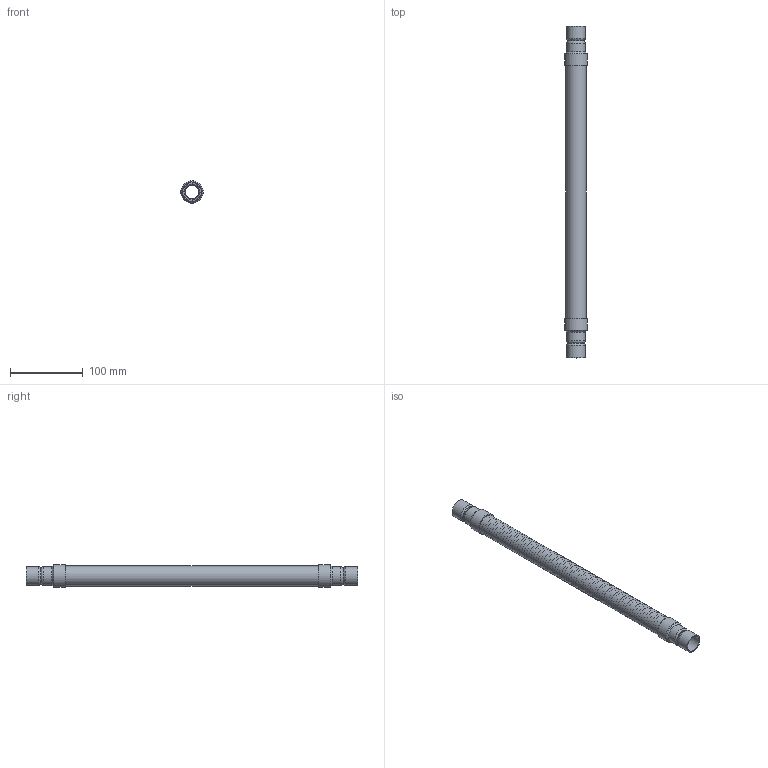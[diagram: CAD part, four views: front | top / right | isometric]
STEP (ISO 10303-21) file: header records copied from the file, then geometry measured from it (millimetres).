
FILE_DESCRIPTION((''),'2;1');
FILE_NAME('C:\2012_Work\Designs\CPSB\CPSB-0.75x18\CPSB-0.75x18.stp','2013-08-26T15:29:21',('KShiels'),(''),'Autodesk Inventor 2012','Autodesk Inventor 2012','');
FILE_SCHEMA(('AUTOMOTIVE_DESIGN { 1 0 10303 214 1 1 1 1 }'));
Length unit declared in the file: inch
Products named in the file (6): CPSB-0; CPSB-0_Welds; A-32704_0
Assembly tree (7 placements, depth 2):
  CPSB-0
    CPSB-0_Welds
    A-32704_0
    A-32704_0
    A-32704_0  x2
    A-32704_0  x2
Bounding box: 30.96 x 457.2 x 30.96 mm (x, y, z)
Volume: 43740.7 mm3; surface area: 209807.4 mm2
Topology: 8 solids, 8 shells, 718 faces, 1094 edges, 726 vertices
Faces by surface type: plane 350, torus 350, cylinder 16, cone 2
Full cylindrical faces by diameter (mm): 22.352 x4, 25.654 x6, 27.178 x1, 27.788 x3, 30.963 x2
Entity records: 14322 total; most frequent: DIRECTION 2842, CARTESIAN_POINT 2127, AXIS2_PLACEMENT_3D 1421, ORIENTED_EDGE 1412, EDGE_LOOP 1404, VERTEX_POINT 706, CIRCLE 706, EDGE_CURVE 706
